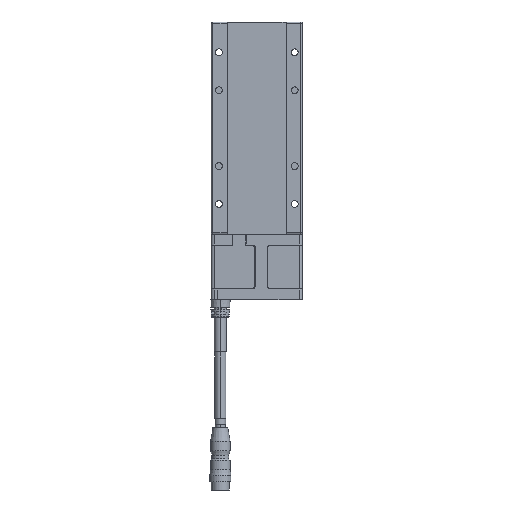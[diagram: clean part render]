
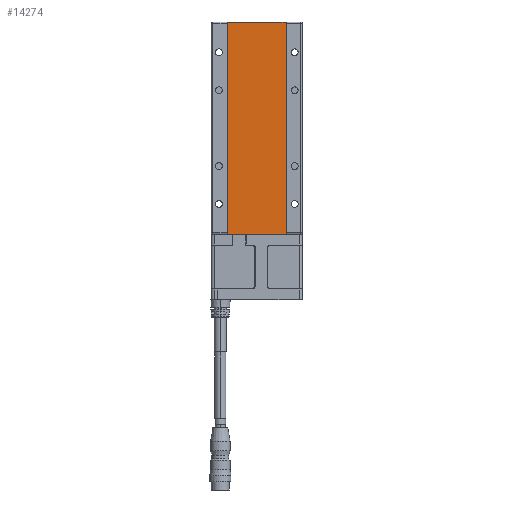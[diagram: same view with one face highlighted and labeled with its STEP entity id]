
A CAD part, front view. The second image highlights one B-rep face of the part: STEP entity #14274.
In plain terms, the highlighted planar face has unit normal (0, -1, 0).
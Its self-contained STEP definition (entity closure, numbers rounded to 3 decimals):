
#6888 = CARTESIAN_POINT ( 'NONE',  ( 19.3, -10.95, -69.8 ) ) ;
#7325 = CARTESIAN_POINT ( 'NONE',  ( 19.3, -10.95, 69.8 ) ) ;
#8526 = PLANE ( 'NONE',  #52763 ) ;
#10227 = LINE ( 'NONE', #79129, #68553 ) ;
#12678 = EDGE_CURVE ( 'NONE', #16531, #33222, #16641, .T. ) ;
#14274 = ADVANCED_FACE ( 'NONE', ( #33742 ), #8526, .F. ) ;
#16398 = VECTOR ( 'NONE', #86282, 1000. ) ;
#16531 = VERTEX_POINT ( 'NONE', #70120 ) ;
#16641 = LINE ( 'NONE', #60361, #83915 ) ;
#24254 = CARTESIAN_POINT ( 'NONE',  ( 19.3, -10.95, 69.8 ) ) ;
#24721 = ORIENTED_EDGE ( 'NONE', *, *, #87795, .T. ) ;
#25726 = EDGE_CURVE ( 'NONE', #33222, #79814, #10227, .T. ) ;
#26743 = DIRECTION ( 'NONE',  ( 0., 0., -1. ) ) ;
#31499 = ORIENTED_EDGE ( 'NONE', *, *, #87197, .T. ) ;
#33222 = VERTEX_POINT ( 'NONE', #51937 ) ;
#33742 = FACE_OUTER_BOUND ( 'NONE', #70496, .T. ) ;
#35981 = DIRECTION ( 'NONE',  ( 1., 0., 0. ) ) ;
#43212 = DIRECTION ( 'NONE',  ( 1., 0., 0. ) ) ;
#51113 = VERTEX_POINT ( 'NONE', #24254 ) ;
#51937 = CARTESIAN_POINT ( 'NONE',  ( -19.3, -10.95, -69.8 ) ) ;
#52532 = CARTESIAN_POINT ( 'NONE',  ( 19.3, -10.95, 69.8 ) ) ;
#52763 = AXIS2_PLACEMENT_3D ( 'NONE', #6888, #75235, #43212 ) ;
#60361 = CARTESIAN_POINT ( 'NONE',  ( -19.3, -10.95, 69.8 ) ) ;
#62948 = CARTESIAN_POINT ( 'NONE',  ( 19.3, -10.95, -69.8 ) ) ;
#68553 = VECTOR ( 'NONE', #35981, 1000. ) ;
#70120 = CARTESIAN_POINT ( 'NONE',  ( -19.3, -10.95, 69.8 ) ) ;
#70496 = EDGE_LOOP ( 'NONE', ( #24721, #31499, #81162, #91771 ) ) ;
#75235 = DIRECTION ( 'NONE',  ( 0., 1., 0. ) ) ;
#79129 = CARTESIAN_POINT ( 'NONE',  ( 19.3, -10.95, -69.8 ) ) ;
#79814 = VERTEX_POINT ( 'NONE', #62948 ) ;
#81162 = ORIENTED_EDGE ( 'NONE', *, *, #12678, .T. ) ;
#83915 = VECTOR ( 'NONE', #26743, 1000. ) ;
#85759 = LINE ( 'NONE', #7325, #16398 ) ;
#86282 = DIRECTION ( 'NONE',  ( 0., 0., 1. ) ) ;
#87197 = EDGE_CURVE ( 'NONE', #51113, #16531, #94079, .T. ) ;
#87795 = EDGE_CURVE ( 'NONE', #79814, #51113, #85759, .T. ) ;
#91771 = ORIENTED_EDGE ( 'NONE', *, *, #25726, .T. ) ;
#94079 = LINE ( 'NONE', #52532, #106479 ) ;
#95725 = DIRECTION ( 'NONE',  ( -1., 0., 0. ) ) ;
#106479 = VECTOR ( 'NONE', #95725, 1000. ) ;
